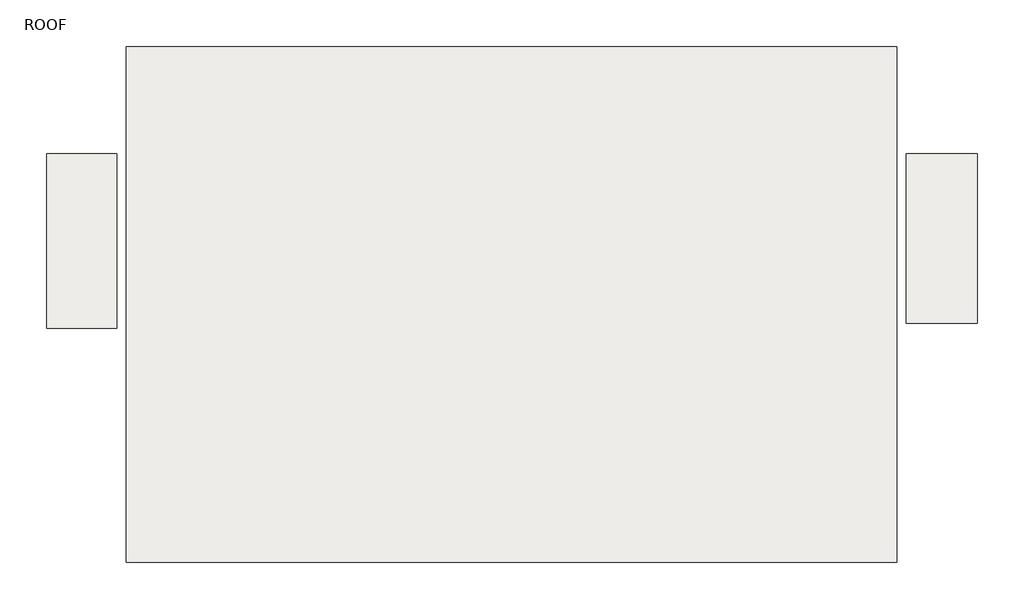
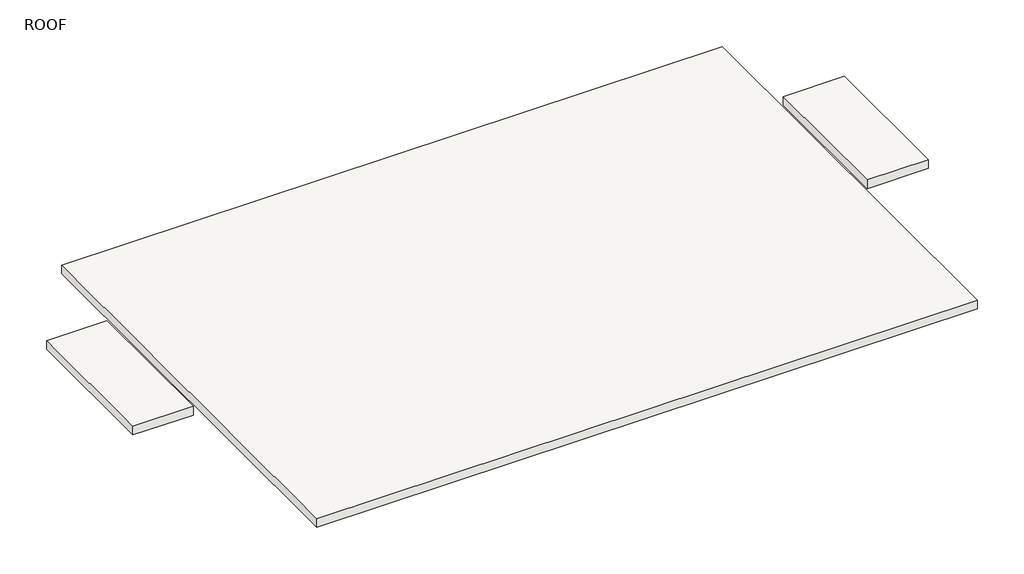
# One storey: 3 roofs.
"""IFC4 building model written with IfcOpenShell, lengths in millimetres."""

from ifc_helpers import new_model, si_unit, frame, origin, place, context, project, spatial, polyline, outline, extrude, element, save

model = new_model("IFC4")

# Units and contexts
model_context = context("Model", 3, world=origin())
ifc_project = project(units=[si_unit("LENGTHUNIT", "METRE", prefix="MILLI")], contexts=[model_context])

# Site, building, storey
site = spatial("IfcSite", under=ifc_project)
building = spatial("IfcBuilding", under=site)
storey = spatial("IfcBuildingStorey", under=building, Name="ROOF", Elevation=12141.2)

# Roofs
placement = place(None, origin())
element("IfcRoof", 1, ObjectType="Generic - 14\"", at=placement, inside=storey, context=model_context, shape_type="SweptSolid", body=[
    extrude(outline(polyline([(-5196.8915125, 15304.2137881), (24257.1084875, 15304.2137881), (24257.1084875, -4401.5862119), (-5196.8915125, -4401.5862119), (-5196.8915125, 15304.2137881)])), frame((0.0, 0.0, 12141.2), z_axis=(0.0, 0.0, 1.0), x_axis=(1.0, 0.0, 0.0)), (0.0, 0.0, 1.0), 406.4),
])
element("IfcRoof", 2, ObjectType="Generic - 14\"", at=placement, inside=storey, context=model_context, shape_type="SweptSolid", body=[
    extrude(outline(polyline([(-5546.8915125, 4539.2137881), (-8237.806756, 4539.2137881), (-8237.806756, 11207.8006), (-5546.8915125, 11207.8006), (-5546.8915125, 4539.2137881)])), frame((0.0, 0.0, 12141.2), z_axis=(0.0, 0.0, 1.0), x_axis=(1.0, 0.0, 0.0)), (0.0, 0.0, 1.0), 406.4),
])
element("IfcRoof", 3, ObjectType="Generic - 14\"", at=placement, inside=storey, context=model_context, shape_type="SweptSolid", body=[
    extrude(outline(polyline([(24607.1084875, 11207.8006), (27334.2237309, 11207.8006), (27334.2237309, 4733.2137881), (24607.1084875, 4733.2137881), (24607.1084875, 11207.8006)])), frame((0.0, 0.0, 12141.2), z_axis=(0.0, 0.0, 1.0), x_axis=(1.0, 0.0, 0.0)), (0.0, 0.0, 1.0), 406.4),
])

save(model, "model.ifc")
